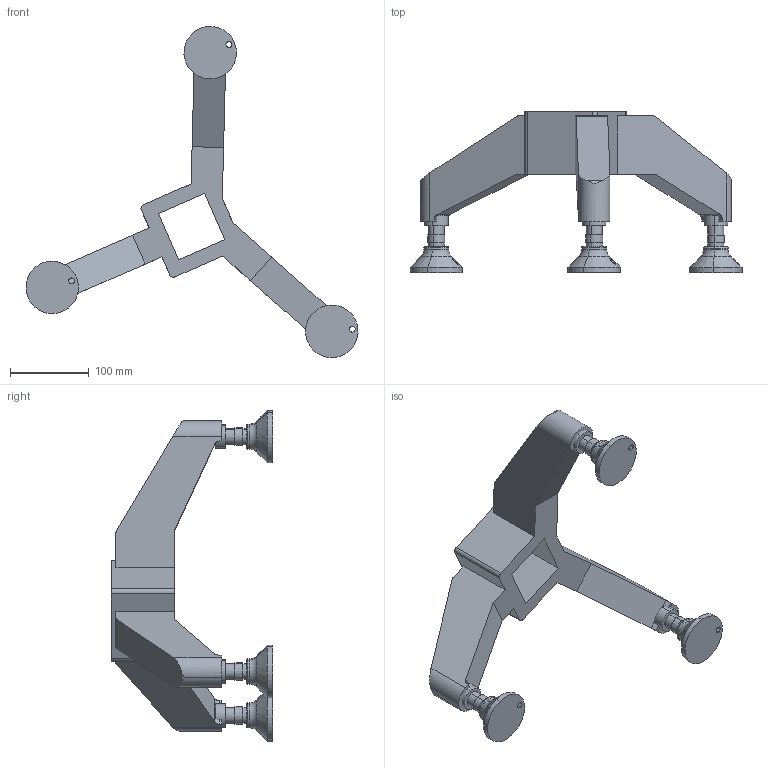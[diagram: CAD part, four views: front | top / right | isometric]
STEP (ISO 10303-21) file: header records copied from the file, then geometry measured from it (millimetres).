
FILE_DESCRIPTION (( 'STEP AP214' ), '1' );
FILE_NAME ('FBFT 64TP.step', '2017-04-05T08:02:55', ( '' ), ( '' ), 'SwSTEP 2.0', 'SolidWorks 2015', '' );
FILE_SCHEMA (( 'AUTOMOTIVE_DESIGN' ));
Length unit declared in the file: millimetre
Products named in the file (1): FBFT 64TP
Bounding box: 421.52 x 205 x 420.41 mm (x, y, z)
Volume: 2105748.6 mm3; surface area: 218993.1 mm2
Topology: 4 solids, 4 shells, 126 faces, 296 edges, 190 vertices
Faces by surface type: cylinder 59, plane 49, torus 12, cone 6
Entity records: 3962 total; most frequent: CARTESIAN_POINT 910, DIRECTION 658, ORIENTED_EDGE 592, EDGE_CURVE 296, AXIS2_PLACEMENT_3D 253, VERTEX_POINT 190, LINE 152, VECTOR 152
